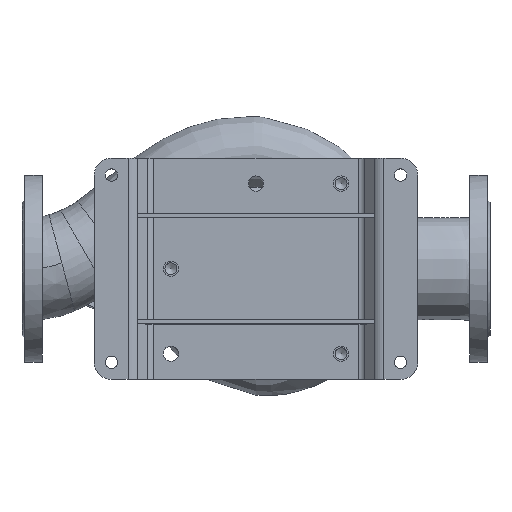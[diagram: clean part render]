
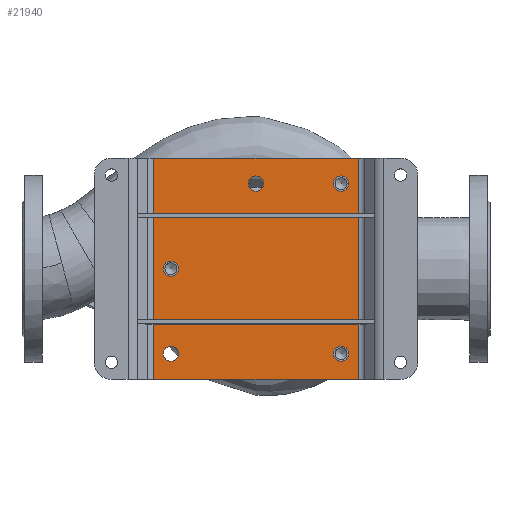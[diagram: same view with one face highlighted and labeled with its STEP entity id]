
A CAD part, top view. The second image highlights one B-rep face of the part: STEP entity #21940.
In plain terms, the highlighted planar face has unit normal (0, 0, 1) as drawn and (0, -1, 0) by its records, which use the part's own axes.
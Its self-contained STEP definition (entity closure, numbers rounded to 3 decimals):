
#435 = PLANE ( 'NONE',  #63347 ) ;
#1062 = LINE ( 'NONE', #41206, #18718 ) ;
#4643 = FACE_BOUND ( 'NONE', #35607, .T. ) ;
#4820 = CIRCLE ( 'NONE', #14615, 9. ) ;
#5229 = CARTESIAN_POINT ( 'NONE',  ( -120., -5., 130. ) ) ;
#5253 = EDGE_LOOP ( 'NONE', ( #11465 ) ) ;
#5303 = EDGE_LOOP ( 'NONE', ( #45126 ) ) ;
#5980 = VECTOR ( 'NONE', #22745, 1000. ) ;
#6166 = FACE_BOUND ( 'NONE', #5253, .T. ) ;
#7238 = EDGE_CURVE ( 'NONE', #64473, #12181, #70152, .T. ) ;
#9072 = VERTEX_POINT ( 'NONE', #18959 ) ;
#10399 = FACE_BOUND ( 'NONE', #59284, .T. ) ;
#10478 = CARTESIAN_POINT ( 'NONE',  ( -100., -5., 91. ) ) ;
#10908 = LINE ( 'NONE', #56770, #5980 ) ;
#11465 = ORIENTED_EDGE ( 'NONE', *, *, #58246, .F. ) ;
#12181 = VERTEX_POINT ( 'NONE', #68016 ) ;
#13925 = DIRECTION ( 'NONE',  ( 0., 0., -1. ) ) ;
#14382 = DIRECTION ( 'NONE',  ( 0., 0., -1. ) ) ;
#14615 = AXIS2_PLACEMENT_3D ( 'NONE', #72447, #31187, #14777 ) ;
#14777 = DIRECTION ( 'NONE',  ( 0., 0., -1. ) ) ;
#14879 = EDGE_CURVE ( 'NONE', #9072, #64473, #1062, .T. ) ;
#16919 = CIRCLE ( 'NONE', #30304, 9. ) ;
#16926 = CIRCLE ( 'NONE', #48649, 9. ) ;
#18716 = DIRECTION ( 'NONE',  ( 0., 0., -1. ) ) ;
#18718 = VECTOR ( 'NONE', #63786, 1000. ) ;
#18959 = CARTESIAN_POINT ( 'NONE',  ( -120., -5., -130. ) ) ;
#19168 = DIRECTION ( 'NONE',  ( -1., 0., 0. ) ) ;
#20489 = CARTESIAN_POINT ( 'NONE',  ( 100., -5., 0. ) ) ;
#21940 = ADVANCED_FACE ( 'NONE', ( #10399, #57003, #4643, #69596, #6166, #47822 ), #435, .T. ) ;
#22696 = VERTEX_POINT ( 'NONE', #10478 ) ;
#22731 = CIRCLE ( 'NONE', #52021, 9. ) ;
#22745 = DIRECTION ( 'NONE',  ( 0., 0., -1. ) ) ;
#23072 = CARTESIAN_POINT ( 'NONE',  ( 100., -5., -9. ) ) ;
#23866 = CARTESIAN_POINT ( 'NONE',  ( 100., -5., 100. ) ) ;
#24983 = DIRECTION ( 'NONE',  ( 0., -1., 0. ) ) ;
#25147 = EDGE_LOOP ( 'NONE', ( #50697, #35171, #26418, #44459 ) ) ;
#25235 = ORIENTED_EDGE ( 'NONE', *, *, #50292, .F. ) ;
#26418 = ORIENTED_EDGE ( 'NONE', *, *, #14879, .F. ) ;
#26921 = CARTESIAN_POINT ( 'NONE',  ( 120., -5., -130. ) ) ;
#30218 = DIRECTION ( 'NONE',  ( 0., 0., -1. ) ) ;
#30304 = AXIS2_PLACEMENT_3D ( 'NONE', #20489, #32688, #14382 ) ;
#31187 = DIRECTION ( 'NONE',  ( 0., -1., 0. ) ) ;
#31560 = EDGE_CURVE ( 'NONE', #36886, #36886, #67426, .T. ) ;
#32688 = DIRECTION ( 'NONE',  ( 0., -1., 0. ) ) ;
#33025 = VERTEX_POINT ( 'NONE', #49496 ) ;
#33871 = DIRECTION ( 'NONE',  ( 1., 0., 0. ) ) ;
#34059 = DIRECTION ( 'NONE',  ( 0., -1., 0. ) ) ;
#34288 = VECTOR ( 'NONE', #33871, 1000. ) ;
#34671 = EDGE_LOOP ( 'NONE', ( #68874 ) ) ;
#35171 = ORIENTED_EDGE ( 'NONE', *, *, #7238, .F. ) ;
#35594 = CARTESIAN_POINT ( 'NONE',  ( 0., -5., 0. ) ) ;
#35607 = EDGE_LOOP ( 'NONE', ( #55235 ) ) ;
#36033 = CARTESIAN_POINT ( 'NONE',  ( 100., -5., 91. ) ) ;
#36886 = VERTEX_POINT ( 'NONE', #60185 ) ;
#37345 = VERTEX_POINT ( 'NONE', #26921 ) ;
#39437 = CARTESIAN_POINT ( 'NONE',  ( -100., -5., -100. ) ) ;
#41206 = CARTESIAN_POINT ( 'NONE',  ( -120., -5., 130. ) ) ;
#41796 = AXIS2_PLACEMENT_3D ( 'NONE', #39437, #34059, #50899 ) ;
#44459 = ORIENTED_EDGE ( 'NONE', *, *, #46404, .F. ) ;
#44954 = EDGE_CURVE ( 'NONE', #33025, #33025, #22731, .T. ) ;
#45126 = ORIENTED_EDGE ( 'NONE', *, *, #69773, .F. ) ;
#46404 = EDGE_CURVE ( 'NONE', #37345, #9072, #72641, .T. ) ;
#47822 = FACE_OUTER_BOUND ( 'NONE', #25147, .T. ) ;
#48266 = VERTEX_POINT ( 'NONE', #36033 ) ;
#48649 = AXIS2_PLACEMENT_3D ( 'NONE', #23866, #24983, #13925 ) ;
#49496 = CARTESIAN_POINT ( 'NONE',  ( 0., -5., -109. ) ) ;
#50292 = EDGE_CURVE ( 'NONE', #75403, #75403, #16919, .T. ) ;
#50697 = ORIENTED_EDGE ( 'NONE', *, *, #52135, .F. ) ;
#50899 = DIRECTION ( 'NONE',  ( 0., 0., -1. ) ) ;
#52021 = AXIS2_PLACEMENT_3D ( 'NONE', #60326, #53852, #18716 ) ;
#52135 = EDGE_CURVE ( 'NONE', #12181, #37345, #10908, .T. ) ;
#53852 = DIRECTION ( 'NONE',  ( 0., -1., 0. ) ) ;
#53955 = CARTESIAN_POINT ( 'NONE',  ( -120., -5., -130. ) ) ;
#55235 = ORIENTED_EDGE ( 'NONE', *, *, #44954, .F. ) ;
#56770 = CARTESIAN_POINT ( 'NONE',  ( 120., -5., 130. ) ) ;
#57003 = FACE_BOUND ( 'NONE', #34671, .T. ) ;
#58246 = EDGE_CURVE ( 'NONE', #22696, #22696, #4820, .T. ) ;
#59284 = EDGE_LOOP ( 'NONE', ( #25235 ) ) ;
#60185 = CARTESIAN_POINT ( 'NONE',  ( -100., -5., -109. ) ) ;
#60326 = CARTESIAN_POINT ( 'NONE',  ( 0., -5., -100. ) ) ;
#61849 = VECTOR ( 'NONE', #19168, 1000. ) ;
#62045 = CARTESIAN_POINT ( 'NONE',  ( -120., -5., 130. ) ) ;
#63347 = AXIS2_PLACEMENT_3D ( 'NONE', #35594, #64254, #30218 ) ;
#63786 = DIRECTION ( 'NONE',  ( 0., 0., 1. ) ) ;
#64254 = DIRECTION ( 'NONE',  ( 0., -1., 0. ) ) ;
#64473 = VERTEX_POINT ( 'NONE', #62045 ) ;
#67426 = CIRCLE ( 'NONE', #41796, 9. ) ;
#68016 = CARTESIAN_POINT ( 'NONE',  ( 120., -5., 130. ) ) ;
#68874 = ORIENTED_EDGE ( 'NONE', *, *, #31560, .F. ) ;
#69596 = FACE_BOUND ( 'NONE', #5303, .T. ) ;
#69773 = EDGE_CURVE ( 'NONE', #48266, #48266, #16926, .T. ) ;
#70152 = LINE ( 'NONE', #5229, #34288 ) ;
#72447 = CARTESIAN_POINT ( 'NONE',  ( -100., -5., 100. ) ) ;
#72641 = LINE ( 'NONE', #53955, #61849 ) ;
#75403 = VERTEX_POINT ( 'NONE', #23072 ) ;
